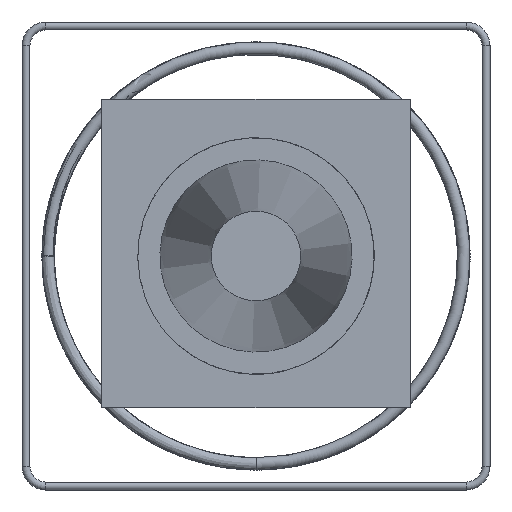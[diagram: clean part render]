
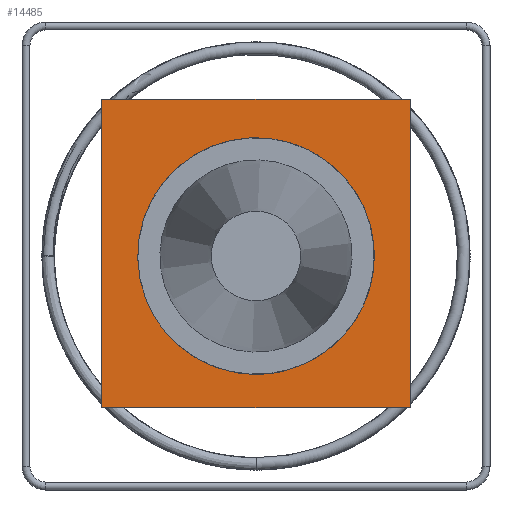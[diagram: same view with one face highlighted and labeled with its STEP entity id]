
A CAD part, left-side view. The second image highlights one B-rep face of the part: STEP entity #14485.
In plain terms, the highlighted planar face has unit normal (-1, 0, 0).
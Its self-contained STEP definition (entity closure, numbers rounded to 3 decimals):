
#1455=PLANE('',#15245);
#2357=LINE('',#42065,#3269);
#2361=LINE('',#42072,#3273);
#2364=LINE('',#42077,#3276);
#2367=LINE('',#42081,#3279);
#3269=VECTOR('',#17629,620.);
#3273=VECTOR('',#17635,620.);
#3276=VECTOR('',#17640,620.);
#3279=VECTOR('',#17645,620.);
#3551=FACE_BOUND('',#5357,.T.);
#4387=FACE_OUTER_BOUND('',#5356,.T.);
#5356=EDGE_LOOP('',(#13310,#13311,#13312,#13313));
#5357=EDGE_LOOP('',(#13314));
#5751=CIRCLE('',#15172,237.5);
#7154=VERTEX_POINT('',#34434);
#7185=VERTEX_POINT('',#42063);
#7186=VERTEX_POINT('',#42064);
#7188=VERTEX_POINT('',#42071);
#7189=VERTEX_POINT('',#42076);
#9206=EDGE_CURVE('',#7154,#7154,#5751,.T.);
#9239=EDGE_CURVE('',#7185,#7186,#2357,.T.);
#9243=EDGE_CURVE('',#7186,#7188,#2361,.T.);
#9246=EDGE_CURVE('',#7188,#7189,#2364,.T.);
#9249=EDGE_CURVE('',#7189,#7185,#2367,.T.);
#13310=ORIENTED_EDGE('',*,*,#9249,.T.);
#13311=ORIENTED_EDGE('',*,*,#9239,.T.);
#13312=ORIENTED_EDGE('',*,*,#9243,.T.);
#13313=ORIENTED_EDGE('',*,*,#9246,.T.);
#13314=ORIENTED_EDGE('',*,*,#9206,.T.);
#14485=ADVANCED_FACE('',(#4387,#3551),#1455,.T.);
#15172=AXIS2_PLACEMENT_3D('',#34435,#17483,#17484);
#15245=AXIS2_PLACEMENT_3D('',#42083,#17647,#17648);
#17483=DIRECTION('center_axis',(1.,0.,0.));
#17484=DIRECTION('ref_axis',(0.,0.86,-0.511));
#17629=DIRECTION('',(0.,0.,-1.));
#17635=DIRECTION('',(0.,-1.,0.));
#17640=DIRECTION('',(0.,0.,1.));
#17645=DIRECTION('',(0.,1.,0.));
#17647=DIRECTION('center_axis',(-1.,0.,0.));
#17648=DIRECTION('ref_axis',(0.,0.,-1.));
#34434=CARTESIAN_POINT('',(-112.151,204.22,-121.246));
#34435=CARTESIAN_POINT('Origin',(-112.151,0.,
0.));
#42063=CARTESIAN_POINT('',(-112.151,310.,315.253));
#42064=CARTESIAN_POINT('',(-112.151,310.,-304.747));
#42065=CARTESIAN_POINT('',(-112.151,310.,315.253));
#42071=CARTESIAN_POINT('',(-112.151,-310.,-304.747));
#42072=CARTESIAN_POINT('',(-112.151,310.,-304.747));
#42076=CARTESIAN_POINT('',(-112.151,-310.,315.253));
#42077=CARTESIAN_POINT('',(-112.151,-310.,-304.747));
#42081=CARTESIAN_POINT('',(-112.151,-310.,315.253));
#42083=CARTESIAN_POINT('Origin',(-112.151,0.,
5.253));
